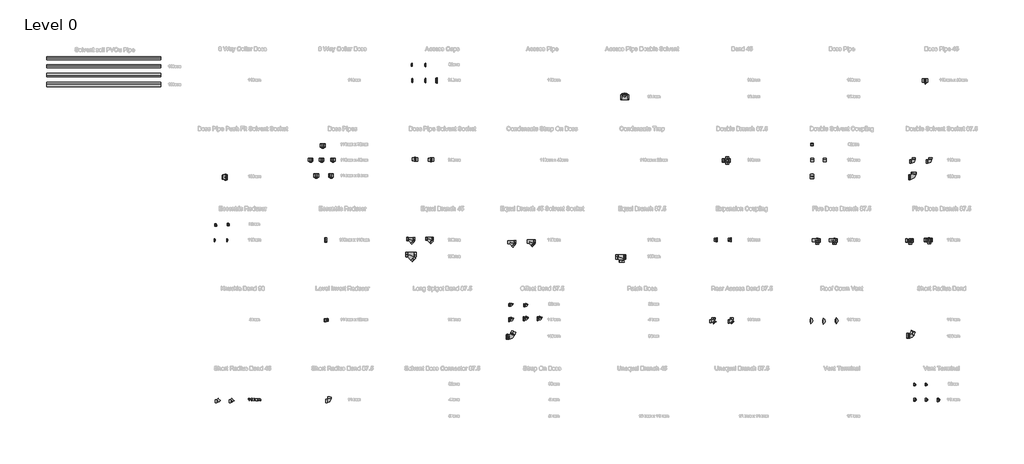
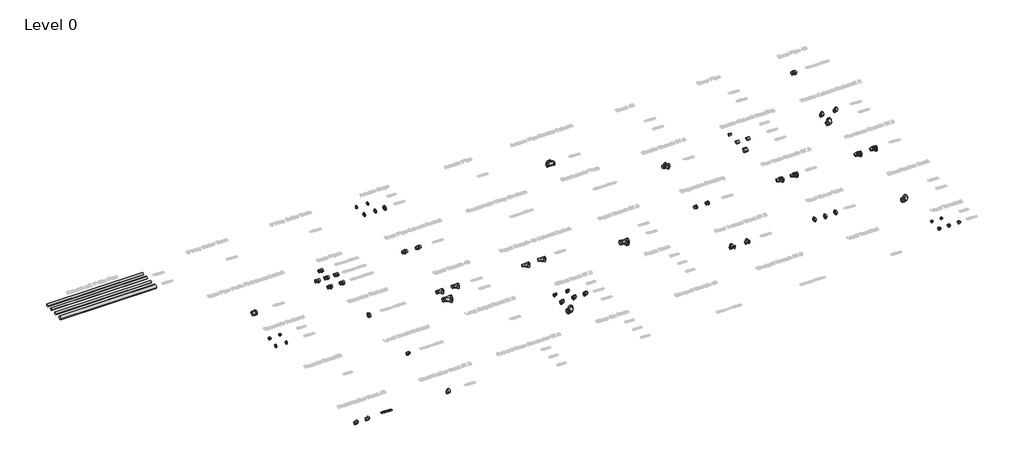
# One storey, part 1 of 28: 66 pipe fittings, 1 proxy.
"""IFC4 building model written with IfcOpenShell, lengths in millimetres."""

from ifc_helpers import new_model, si_unit, point, frame, frame_2d, origin, origin_with_axes, place, context, project, spatial, polyline, circle_curve, trimmed, segment, composite_curve, outline, extrude, transform, mapped, element, save
from components import pipe_fitting_2f369d07, pipe_fitting_110_50mm_black_856728b7, sbs41_110mm_grey_8f80f610, sbs415_110mm_black_f26f8e69, sbs42_110mm_black_3087da24, sbs420_110mm_black_80ae0a49, sbs420_110mm_grey_e3ce7930, sbs615_160mm_grey_46f063da, sbs62_160mm_grey_686f7743, se30_82mm_black_4757cc3a, se30_82mm_grey_369aa931, se40_110mm_black_21bf3a31, se409_110mm_black_ec458fc1, se62_160mm_grey_2d04aa3b, ses301_82mm_grey_1981b395, ses401_110mm_black_934ae7e3, ses601_160mm_grey_66289dab, sf611_160mm_grey_c065f74c, sne300_82mm_black_0a9ef5f2, sne405_110mm_black_bdd464f6, sne600_160mm_grey_be5d63d1, srm30_82mm_black_274c11a8, srs304_110mm_x_82mm_grey_6781d9f6, srs604_160mm_x_110mm_grey_bcae88a4, sv321_82mm_black_45549914, sv42_110mm_black_ff0adb0d, svc1_110mm_black_98830061, sw60_160mm_grey_9d2c8001, sws405_110mm_black_abae9346, sws41_110mm_x_40mm_black_fd55dc5a, sws415_110mm_x_32mm_grey_02e9ccfc, sws42_110mm_x_50mm_black_5e80c7fd, sy415_110mm_black_735aa494, sys404_110mm_grey_1d753bb9, sys405_110mm_black_4771365e, sys460_110mm_black_a823f374, sys466_110mm_black_27348bd2, sys601_160mm_grey_4aa5460a, sys666_160mm_grey_06b153c9

model = new_model("IFC4")

# Units and contexts
model_context = context("Model", 3, world=origin())
ifc_project = project(units=[si_unit("LENGTHUNIT", "METRE", prefix="MILLI")], contexts=[model_context])

# Site, building, storey
site = spatial("IfcSite", under=ifc_project)
building = spatial("IfcBuilding", under=site)
storey = spatial("IfcBuildingStorey", under=building, Name="Level 0", Elevation=0.0)

# Proxy
placement = place(None, origin())
element("IfcBuildingElementProxy", 1, Name="100mm Arial", ObjectType="100mm Arial", at=placement, inside=storey, context=model_context, shape_type="SweptSolid", body=[
    extrude(outline(polyline([(-20791.7293188, -2962.2832696), (-20804.0370111, -2962.2832696), (-20804.0370111, -2885.5525004), (-20815.6956649, -2893.8577889), (-20828.6523957, -2900.0717312), (-20828.6523957, -2888.4371158), (-20810.6115303, -2876.9226927), (-20799.6620111, -2863.8217312), (-20791.7293188, -2863.8217312), (-20791.7293188, -2962.2832696)])), origin_with_axes(), (0.0, 0.0, 1.0), 15.0),
    extrude(outline(polyline([(-20716.3447034, -2962.2832696), (-20728.6523957, -2962.2832696), (-20728.6523957, -2885.5525004), (-20740.3110495, -2893.8577889), (-20753.2677803, -2900.0717312), (-20753.2677803, -2888.4371158), (-20735.2269149, -2876.9226927), (-20724.2773957, -2863.8217312), (-20716.3447034, -2863.8217312), (-20716.3447034, -2962.2832696)])), origin_with_axes(), (0.0, 0.0, 1.0), 15.0),
    extrude(outline(polyline([(-20687.1139341, -2913.8457696), (-20683.4961457, -2885.5164427), (-20672.7509534, -2869.1823081), (-20654.8062418, -2863.8217312), (-20640.4312418, -2866.9948081), (-20630.5033572, -2876.1414427), (-20624.7341264, -2890.7087504), (-20622.4985495, -2913.8457696), (-20626.0802803, -2942.0549042), (-20636.7894149, -2958.4250965), (-20654.8062418, -2963.8217312), (-20667.5947034, -2961.4779812), (-20677.3062418, -2954.4467312), (-20684.6620111, -2937.7940869), (-20687.1139341, -2913.8457696)]), holes=[polyline([(-20674.8062418, -2913.8217312), (-20673.3639341, -2933.1817071), (-20669.0370111, -2944.386635), (-20662.5947034, -2949.7321879), (-20654.8062418, -2951.5140389), (-20647.0177803, -2949.7261783), (-20640.5754726, -2944.3625965), (-20636.2485495, -2933.151659), (-20634.8062418, -2913.8217312), (-20636.2004726, -2894.8974523), (-20640.3831649, -2883.605385), (-20646.8134534, -2877.9984139), (-20654.9504726, -2876.1294235), (-20662.6547995, -2877.7760581), (-20668.8447034, -2882.7159619), (-20673.3158572, -2894.7111542), (-20674.8062418, -2913.8217312)])]), origin_with_axes(), (0.0, 0.0, 1.0), 15.0),
    extrude(outline(polyline([(-20608.6523957, -2962.2832696), (-20608.6523957, -2889.9755773), (-20596.3447034, -2889.9755773), (-20596.3447034, -2901.8746158), (-20587.8831649, -2892.1270196), (-20575.8398957, -2888.4371158), (-20563.5081649, -2892.199135), (-20556.7293188, -2902.7400004), (-20547.1259534, -2892.0128369), (-20534.9985495, -2888.4371158), (-20525.7467466, -2889.9244956), (-20518.9047995, -2894.386635), (-20514.6770351, -2901.9437264), (-20513.2677803, -2912.7159619), (-20513.2677803, -2962.2832696), (-20525.5754726, -2962.2832696), (-20525.5754726, -2918.0044235), (-20526.7172995, -2907.7279812), (-20530.8519149, -2902.667885), (-20537.8831649, -2900.7448081), (-20549.9865303, -2905.6726927), (-20554.8062418, -2921.4659619), (-20554.8062418, -2962.2832696), (-20567.1139341, -2962.2832696), (-20567.1139341, -2916.6342312), (-20569.9624918, -2904.7111542), (-20579.3014341, -2900.7448081), (-20588.4120111, -2903.3890389), (-20594.4697034, -2911.1294235), (-20596.3447034, -2925.8169235), (-20596.3447034, -2962.2832696), (-20608.6523957, -2962.2832696)])), origin_with_axes(), (0.0, 0.0, 1.0), 15.0),
    extrude(outline(polyline([(-20494.8062418, -2962.2832696), (-20494.8062418, -2889.9755773), (-20482.4985495, -2889.9755773), (-20482.4985495, -2901.8746158), (-20474.0370111, -2892.1270196), (-20461.9937418, -2888.4371158), (-20449.6620111, -2892.199135), (-20442.8831649, -2902.7400004), (-20433.2797995, -2892.0128369), (-20421.1523957, -2888.4371158), (-20411.9005928, -2889.9244956), (-20405.0586457, -2894.386635), (-20400.8308813, -2901.9437264), (-20399.4216264, -2912.7159619), (-20399.4216264, -2962.2832696), (-20411.7293188, -2962.2832696), (-20411.7293188, -2918.0044235), (-20412.8711457, -2907.7279812), (-20417.0057611, -2902.667885), (-20424.0370111, -2900.7448081), (-20436.1403764, -2905.6726927), (-20440.960088, -2921.4659619), (-20440.960088, -2962.2832696), (-20453.2677803, -2962.2832696), (-20453.2677803, -2916.6342312), (-20456.116338, -2904.7111542), (-20465.4552803, -2900.7448081), (-20474.5658572, -2903.3890389), (-20480.6235495, -2911.1294235), (-20482.4985495, -2925.8169235), (-20482.4985495, -2962.2832696), (-20494.8062418, -2962.2832696)])), origin_with_axes(), (0.0, 0.0, 1.0), 15.0),
])

# Pipe fittings
element("IfcPipeFitting", 2, ObjectType="Marley - PVC-u Solvent soil - Black", at=placement, inside=storey, context=model_context, shape_type="SweptSolid", body=[
    extrude(outline(composite_curve([segment(trimmed(circle_curve(frame_2d((9042.2150172, 0.0)), 55.0), [point((8987.2150172, 0.0))], [point((9042.2150172, 55.0))], False, "CARTESIAN"), True, "CONTINUOUS"), segment(trimmed(circle_curve(frame_2d((9042.2150172, 0.0)), 55.0), [point((9042.2150172, 55.0))], [point((9097.2150172, 0.0))], False, "CARTESIAN"), True, "CONTINUOUS"), segment(trimmed(circle_curve(frame_2d((9042.2150172, 0.0)), 55.0), [point((9097.2150172, 0.0))], [point((9042.2150172, -55.0))], False, "CARTESIAN"), True, "CONTINUOUS"), segment(trimmed(circle_curve(frame_2d((9042.2150172, 0.0)), 55.0), [point((9042.2150172, -55.0))], [point((8987.2150172, 0.0))], False, "CARTESIAN"), True, "CONTINUOUS")], self_intersect=False)), frame((-27902.1440159, 0.0, 0.0), z_axis=(1.0, 0.0, 0.0), x_axis=(0.0, 1.0, 0.0)), (0.0, 0.0, 1.0), 4000.0),
])
element("IfcPipeFitting", 3, ObjectType="Marley - PVC-u Solvent soil - Grey", at=placement, inside=storey, context=model_context, shape_type="SweptSolid", body=[
    extrude(outline(composite_curve([segment(trimmed(circle_curve(frame_2d((8760.0861605, 0.0)), 55.0), [point((8705.0861605, 0.0))], [point((8760.0861605, 55.0))], False, "CARTESIAN"), True, "CONTINUOUS"), segment(trimmed(circle_curve(frame_2d((8760.0861605, 0.0)), 55.0), [point((8760.0861605, 55.0))], [point((8815.0861605, 0.0))], False, "CARTESIAN"), True, "CONTINUOUS"), segment(trimmed(circle_curve(frame_2d((8760.0861605, 0.0)), 55.0), [point((8815.0861605, 0.0))], [point((8760.0861605, -55.0))], False, "CARTESIAN"), True, "CONTINUOUS"), segment(trimmed(circle_curve(frame_2d((8760.0861605, 0.0)), 55.0), [point((8760.0861605, -55.0))], [point((8705.0861605, 0.0))], False, "CARTESIAN"), True, "CONTINUOUS")], self_intersect=False)), frame((-27902.1440159, 0.0, 0.0), z_axis=(1.0, 0.0, 0.0), x_axis=(0.0, 1.0, 0.0)), (0.0, 0.0, 1.0), 4000.0),
])
element("IfcPipeFitting", 4, ObjectType="Marley - PVC-u Solvent soil - Grey", at=placement, inside=storey, context=model_context, shape_type="SweptSolid", body=[
    extrude(outline(composite_curve([segment(trimmed(circle_curve(frame_2d((8131.2108342, 0.0)), 80.0), [point((8051.2108342, 0.0))], [point((8131.2108342, 80.0))], False, "CARTESIAN"), True, "CONTINUOUS"), segment(trimmed(circle_curve(frame_2d((8131.2108342, 0.0)), 80.0), [point((8131.2108342, 80.0))], [point((8211.2108342, 0.0))], False, "CARTESIAN"), True, "CONTINUOUS"), segment(trimmed(circle_curve(frame_2d((8131.2108342, 0.0)), 80.0), [point((8211.2108342, 0.0))], [point((8131.2108342, -80.0))], False, "CARTESIAN"), True, "CONTINUOUS"), segment(trimmed(circle_curve(frame_2d((8131.2108342, 0.0)), 80.0), [point((8131.2108342, -80.0))], [point((8051.2108342, 0.0))], False, "CARTESIAN"), True, "CONTINUOUS")], self_intersect=False)), frame((-27902.1440159, 0.0, 0.0), z_axis=(1.0, 0.0, 0.0), x_axis=(0.0, 1.0, 0.0)), (0.0, 0.0, 1.0), 4000.0),
])
element("IfcPipeFitting", 5, ObjectType="Marley - PVC-u Solvent soil - White", at=placement, inside=storey, context=model_context, shape_type="SweptSolid", body=[
    extrude(outline(composite_curve([segment(trimmed(circle_curve(frame_2d((8456.1377626, 0.0)), 55.0), [point((8401.1377626, 0.0))], [point((8456.1377626, 55.0))], False, "CARTESIAN"), True, "CONTINUOUS"), segment(trimmed(circle_curve(frame_2d((8456.1377626, 0.0)), 55.0), [point((8456.1377626, 55.0))], [point((8511.1377626, 0.0))], False, "CARTESIAN"), True, "CONTINUOUS"), segment(trimmed(circle_curve(frame_2d((8456.1377626, 0.0)), 55.0), [point((8511.1377626, 0.0))], [point((8456.1377626, -55.0))], False, "CARTESIAN"), True, "CONTINUOUS"), segment(trimmed(circle_curve(frame_2d((8456.1377626, 0.0)), 55.0), [point((8456.1377626, -55.0))], [point((8401.1377626, 0.0))], False, "CARTESIAN"), True, "CONTINUOUS")], self_intersect=False)), frame((-27902.1440159, 0.0, 0.0), z_axis=(1.0, 0.0, 0.0), x_axis=(0.0, 1.0, 0.0)), (0.0, 0.0, 1.0), 4000.0),
])
pipe_fitting_shape = pipe_fitting_2f369d07(model_context)
element("IfcPipeFitting", 6, ObjectType="MarleyPlumbingAndDrainage_PipeFitting_BossPipe_SWS4135 : 110x50mm  - Grey", at=placement, inside=storey, context=model_context, shape_type="MappedRepresentation", body=[
    mapped(pipe_fitting_shape, transform((2830.9335488, 8260.2145219, 0.0), x_axis=(1.0, 0.0, 0.0), y_axis=(0.0, 1.0, 0.0), z_axis=(0.0, 0.0, 1.0))),
])
pipe_fitting_110_50mm_black_shape = pipe_fitting_110_50mm_black_856728b7(model_context)
element("IfcPipeFitting", 7, ObjectType="MarleyPlumbingAndDrainage_PipeFitting_EccentricReducer_SRM402 : 110-50mm - Black", at=placement, inside=storey, context=model_context, shape_type="MappedRepresentation", body=[
    mapped(pipe_fitting_110_50mm_black_shape, transform((-22004.0664512, 2670.2145219, 0.0), x_axis=(1.0, 0.0, 0.0), y_axis=(0.0, 1.0, 0.0), z_axis=(0.0, 0.0, 1.0))),
])
element("IfcPipeFitting", 8, ObjectType="MarleyPlumbingAndDrainage_PipeFitting_EccentricReducer_SRM402 : 110-50mm - Grey", at=placement, inside=storey, context=model_context, shape_type="MappedRepresentation", body=[
    mapped(pipe_fitting_110_50mm_black_shape, transform((-21564.0664512, 2670.2145219, 0.0), x_axis=(1.0, 0.0, 0.0), y_axis=(0.0, 1.0, 0.0), z_axis=(0.0, 0.0, 1.0))),
])
sbs41_110mm_grey_shape = sbs41_110mm_grey_8f80f610(model_context)
element("IfcPipeFitting", 9, ObjectType="MarleyPlumbingAndDrainage_PipeFitting_ShortRadiusBend87.5 : SBS41 - 110mm - Grey", at=placement, inside=storey, context=model_context, shape_type="MappedRepresentation", body=[
    mapped(sbs41_110mm_grey_shape, transform((-17974.2996631, -2974.4663796, 0.0), x_axis=(1.0, 0.0, 0.0), y_axis=(0.0, 1.0, 0.0), z_axis=(0.0, 0.0, 1.0))),
])
sbs415_110mm_black_shape = sbs415_110mm_black_f26f8e69(model_context)
element("IfcPipeFitting", 10, ObjectType="MarleyPlumbingAndDrainage_PipeFitting_ShortRadiusBend45 : SBS415 - 110mm - Black", at=placement, inside=storey, context=model_context, shape_type="MappedRepresentation", body=[
    mapped(sbs415_110mm_black_shape, transform((-21894.2996631, -2979.7854781, 0.0), x_axis=(1.0, 0.0, 0.0), y_axis=(0.0, 1.0, 0.0), z_axis=(0.0, 0.0, 1.0))),
])
element("IfcPipeFitting", 11, ObjectType="MarleyPlumbingAndDrainage_PipeFitting_ShortRadiusBend45 : SBS415 - 110mm - Grey", at=placement, inside=storey, context=model_context, shape_type="MappedRepresentation", body=[
    mapped(sbs415_110mm_black_shape, transform((-21414.2996631, -2979.7854781, 0.0), x_axis=(1.0, 0.0, 0.0), y_axis=(0.0, 1.0, 0.0), z_axis=(0.0, 0.0, 1.0))),
])
sbs42_110mm_black_shape = sbs42_110mm_black_3087da24(model_context)
element("IfcPipeFitting", 12, ObjectType="MarleyPlumbingAndDrainage_PipeFitting_DoubleSolventSocket87-5 : SBS42 - 110mm - Black", at=placement, inside=storey, context=model_context, shape_type="MappedRepresentation", body=[
    mapped(sbs42_110mm_black_shape, transform((2505.7589306, 5421.2671681, 0.0), x_axis=(1.0, 0.0, 0.0), y_axis=(0.0, 1.0, 0.0), z_axis=(0.0, 0.0, 1.0))),
])
element("IfcPipeFitting", 13, ObjectType="MarleyPlumbingAndDrainage_PipeFitting_DoubleSolventSocket87-5 : SBS42 - 110mm - Grey", at=placement, inside=storey, context=model_context, shape_type="MappedRepresentation", body=[
    mapped(sbs42_110mm_black_shape, transform((3085.7589306, 5421.2671681, 0.0), x_axis=(1.0, 0.0, 0.0), y_axis=(0.0, 1.0, 0.0), z_axis=(0.0, 0.0, 1.0))),
])
sbs420_110mm_black_shape = sbs420_110mm_black_80ae0a49(model_context)
element("IfcPipeFitting", 14, ObjectType="MarleyPlumbingAndDrainage_PipeFitting_RearAccessBend87-5 : SBS420 - 110mm - Black", at=placement, inside=storey, context=model_context, shape_type="MappedRepresentation", body=[
    mapped(sbs420_110mm_black_shape, transform((-4527.4996631, -176.2862224, 0.0), x_axis=(1.0, 0.0, 0.0), y_axis=(0.0, 1.0, 0.0), z_axis=(0.0, 0.0, 1.0))),
])
sbs420_110mm_grey_shape = sbs420_110mm_grey_e3ce7930(model_context)
element("IfcPipeFitting", 15, ObjectType="MarleyPlumbingAndDrainage_PipeFitting_RearAccessBend87-5 : SBS420 - 110mm - Grey", at=placement, inside=storey, context=model_context, shape_type="MappedRepresentation", body=[
    mapped(sbs420_110mm_grey_shape, transform((-3887.4996631, -180.8831641, 0.0), x_axis=(1.0, 0.0, 0.0), y_axis=(0.0, 1.0, 0.0), z_axis=(0.0, 0.0, 1.0))),
])
sbs615_160mm_grey_shape = sbs615_160mm_grey_46f063da(model_context)
element("IfcPipeFitting", 16, ObjectType="MarleyPlumbingAndDrainage_PipeFitting_ShortRadiusBend : SBS615 - 160mm - Grey", at=placement, inside=storey, context=model_context, shape_type="MappedRepresentation", body=[
    mapped(sbs615_160mm_grey_shape, transform((2425.7589306, -686.2668881, 0.0), x_axis=(1.0, 0.0, 0.0), y_axis=(0.0, 1.0, 0.0), z_axis=(0.0, 0.0, 1.0))),
])
sbs62_160mm_grey_shape = sbs62_160mm_grey_686f7743(model_context)
element("IfcPipeFitting", 17, ObjectType="MarleyPlumbingAndDrainage_PipeFitting_DoubleSolventSocket87-5 : SBS62 - 160mm - Grey", at=placement, inside=storey, context=model_context, shape_type="MappedRepresentation", body=[
    mapped(sbs62_160mm_grey_shape, transform((2505.7589306, 4874.2311011, 0.0), x_axis=(1.0, 0.0, 0.0), y_axis=(0.0, 1.0, 0.0), z_axis=(0.0, 0.0, 1.0))),
])
se30_82mm_black_shape = se30_82mm_black_4757cc3a(model_context)
element("IfcPipeFitting", 18, ObjectType="MarleyPlumbingAndDrainage_PipeFitting_AccessCaps : SE30 - 82mm - Black", at=placement, inside=storey, context=model_context, shape_type="MappedRepresentation", body=[
    mapped(se30_82mm_black_shape, transform((-14758.3806337, 8816.4227471, 0.0), x_axis=(1.0, 0.0, 0.0), y_axis=(0.0, 1.0, 0.0), z_axis=(0.0, 0.0, 1.0))),
])
se30_82mm_grey_shape = se30_82mm_grey_369aa931(model_context)
element("IfcPipeFitting", 19, ObjectType="MarleyPlumbingAndDrainage_PipeFitting_AccessCaps : SE30 - 82mm - Grey", at=placement, inside=storey, context=model_context, shape_type="MappedRepresentation", body=[
    mapped(se30_82mm_grey_shape, transform((-14298.3806337, 8811.1362641, 0.0), x_axis=(1.0, 0.0, 0.0), y_axis=(0.0, 1.0, 0.0), z_axis=(0.0, 0.0, 1.0))),
])
se40_110mm_black_shape = se40_110mm_black_21bf3a31(model_context)
element("IfcPipeFitting", 20, ObjectType="MarleyPlumbingAndDrainage_PipeFitting_AccessCaps : SE40 - 110mm - Black", at=placement, inside=storey, context=model_context, shape_type="MappedRepresentation", body=[
    mapped(se40_110mm_black_shape, transform((-14758.3806337, 8266.6285151, 0.0), x_axis=(1.0, 0.0, 0.0), y_axis=(0.0, 1.0, 0.0), z_axis=(0.0, 0.0, 1.0))),
])
element("IfcPipeFitting", 21, ObjectType="MarleyPlumbingAndDrainage_PipeFitting_AccessCaps : SE40 - 110mm - Grey", at=placement, inside=storey, context=model_context, shape_type="MappedRepresentation", body=[
    mapped(se40_110mm_black_shape, transform((-14298.3806337, 8261.3420321, 0.0), x_axis=(1.0, 0.0, 0.0), y_axis=(0.0, 1.0, 0.0), z_axis=(0.0, 0.0, 1.0))),
])
se409_110mm_black_shape = se409_110mm_black_ec458fc1(model_context)
element("IfcPipeFitting", 22, ObjectType="MarleyPlumbingAndDrainage_PipeFitting_ExpansionCoupling : SE409 - 110mm - Black", at=placement, inside=storey, context=model_context, shape_type="MappedRepresentation", body=[
    mapped(se409_110mm_black_shape, transform((-4434.2410694, 2679.9135519, 0.0), x_axis=(1.0, 0.0, 0.0), y_axis=(0.0, 1.0, 0.0), z_axis=(0.0, 0.0, 1.0))),
])
element("IfcPipeFitting", 23, ObjectType="MarleyPlumbingAndDrainage_PipeFitting_ExpansionCoupling : SE409 - 110mm - Grey", at=placement, inside=storey, context=model_context, shape_type="MappedRepresentation", body=[
    mapped(se409_110mm_black_shape, transform((-3939.2410694, 2684.5104937, 0.0), x_axis=(1.0, 0.0, 0.0), y_axis=(0.0, 1.0, 0.0), z_axis=(0.0, 0.0, 1.0))),
])
se62_160mm_grey_shape = se62_160mm_grey_2d04aa3b(model_context)
element("IfcPipeFitting", 24, ObjectType="MarleyPlumbingAndDrainage_PipeFitting_AccessCaps : SE62 - 160mm - Grey", at=placement, inside=storey, context=model_context, shape_type="MappedRepresentation", body=[
    mapped(se62_160mm_grey_shape, transform((-13898.3806337, 8266.6285151, 0.0), x_axis=(1.0, 0.0, 0.0), y_axis=(0.0, 1.0, 0.0), z_axis=(0.0, 0.0, 1.0))),
])
ses301_82mm_grey_shape = ses301_82mm_grey_1981b395(model_context)
element("IfcPipeFitting", 25, ObjectType="MarleyPlumbingAndDrainage_PipeFitting_DoubleSolventCoupling : SES301 - 82mm - Grey", at=placement, inside=storey, context=model_context, shape_type="MappedRepresentation", body=[
    mapped(ses301_82mm_grey_shape, transform((-1054.2410694, 6026.1169466, 0.0), x_axis=(1.0, 0.0, 0.0), y_axis=(0.0, 1.0, 0.0), z_axis=(0.0, 0.0, 1.0))),
])
ses401_110mm_black_shape = ses401_110mm_black_934ae7e3(model_context)
element("IfcPipeFitting", 26, ObjectType="MarleyPlumbingAndDrainage_PipeFitting_DoubleSolventCoupling : SES401 - 110mm - Black", at=placement, inside=storey, context=model_context, shape_type="MappedRepresentation", body=[
    mapped(ses401_110mm_black_shape, transform((-1054.2410694, 5483.8689985, 0.0), x_axis=(1.0, 0.0, 0.0), y_axis=(0.0, 1.0, 0.0), z_axis=(0.0, 0.0, 1.0))),
])
element("IfcPipeFitting", 27, ObjectType="MarleyPlumbingAndDrainage_PipeFitting_DoubleSolventCoupling : SES401 - 110mm - Grey", at=placement, inside=storey, context=model_context, shape_type="MappedRepresentation", body=[
    mapped(ses401_110mm_black_shape, transform((-614.2410694, 5483.8689985, 0.0), x_axis=(1.0, 0.0, 0.0), y_axis=(0.0, 1.0, 0.0), z_axis=(0.0, 0.0, 1.0))),
])
ses601_160mm_grey_shape = ses601_160mm_grey_66289dab(model_context)
element("IfcPipeFitting", 28, ObjectType="MarleyPlumbingAndDrainage_PipeFitting_DoubleSolventCoupling : SES601 - 160mm - Grey", at=placement, inside=storey, context=model_context, shape_type="MappedRepresentation", body=[
    mapped(ses601_160mm_grey_shape, transform((-1054.2410694, 4903.3856182, 0.0), x_axis=(1.0, 0.0, 0.0), y_axis=(0.0, 1.0, 0.0), z_axis=(0.0, 0.0, 1.0))),
])
sf611_160mm_grey_shape = sf611_160mm_grey_c065f74c(model_context)
element("IfcPipeFitting", 29, ObjectType="MarleyPlumbingAndDrainage_PipeFitting_AccessPipeDoubleSolvent : SF611 - 160mm - Grey", at=placement, inside=storey, context=model_context, shape_type="MappedRepresentation", body=[
    mapped(sf611_160mm_grey_shape, transform((-7636.0664512, 7671.6477338, 0.0), x_axis=(0.0, -1.0, 0.0), y_axis=(1.0, 0.0, 0.0), z_axis=(0.0, 0.0, 1.0))),
])
sne300_82mm_black_shape = sne300_82mm_black_0a9ef5f2(model_context)
element("IfcPipeFitting", 30, ObjectType="MarleyPlumbingAndDrainage_PipeFitting_OffsetBend67-5 : SNE300 - 82mm - Black", at=placement, inside=storey, context=model_context, shape_type="MappedRepresentation", body=[
    mapped(sne300_82mm_black_shape, transform((-11607.4996631, 400.6991396, 0.0), x_axis=(1.0, 0.0, 0.0), y_axis=(0.0, 1.0, 0.0), z_axis=(0.0, 0.0, 1.0))),
])
element("IfcPipeFitting", 31, ObjectType="MarleyPlumbingAndDrainage_PipeFitting_OffsetBend67-5 : SNE300 - 82mm - Grey", at=placement, inside=storey, context=model_context, shape_type="MappedRepresentation", body=[
    mapped(sne300_82mm_black_shape, transform((-11087.4996631, 386.9083144, 0.0), x_axis=(1.0, 0.0, 0.0), y_axis=(0.0, 1.0, 0.0), z_axis=(0.0, 0.0, 1.0))),
])
sne405_110mm_black_shape = sne405_110mm_black_bdd464f6(model_context)
element("IfcPipeFitting", 32, ObjectType="MarleyPlumbingAndDrainage_PipeFitting_OffsetBend67-5 : SNE405 - 110mm - Black", at=placement, inside=storey, context=model_context, shape_type="MappedRepresentation", body=[
    mapped(sne405_110mm_black_shape, transform((-11607.4996631, -116.6096683, 0.0), x_axis=(1.0, 0.0, 0.0), y_axis=(0.0, 1.0, 0.0), z_axis=(0.0, 0.0, 1.0))),
])
element("IfcPipeFitting", 33, ObjectType="MarleyPlumbingAndDrainage_PipeFitting_OffsetBend67-5 : SNE405 - 110mm - Grey", at=placement, inside=storey, context=model_context, shape_type="MappedRepresentation", body=[
    mapped(sne405_110mm_black_shape, transform((-11087.4996631, -86.2123911, 0.0), x_axis=(1.0, 0.0, 0.0), y_axis=(0.0, 1.0, 0.0), z_axis=(0.0, 0.0, 1.0))),
])
element("IfcPipeFitting", 34, ObjectType="MarleyPlumbingAndDrainage_PipeFitting_OffsetBend67-5 : SNE405 - 110mm - White", at=placement, inside=storey, context=model_context, shape_type="MappedRepresentation", body=[
    mapped(sne405_110mm_black_shape, transform((-10607.4996631, -84.4507574, 0.0), x_axis=(1.0, 0.0, 0.0), y_axis=(0.0, 1.0, 0.0), z_axis=(0.0, 0.0, 1.0))),
])
sne600_160mm_grey_shape = sne600_160mm_grey_be5d63d1(model_context)
element("IfcPipeFitting", 35, ObjectType="MarleyPlumbingAndDrainage_PipeFitting_OffsetBend67-5 : SNE600 - 160mm - Grey", at=placement, inside=storey, context=model_context, shape_type="MappedRepresentation", body=[
    mapped(sne600_160mm_grey_shape, transform((-11607.4996631, -720.9546449, 0.0), x_axis=(1.0, 0.0, 0.0), y_axis=(0.0, 1.0, 0.0), z_axis=(0.0, 0.0, 1.0))),
])
srm30_82mm_black_shape = srm30_82mm_black_274c11a8(model_context)
element("IfcPipeFitting", 36, ObjectType="MarleyPlumbingAndDrainage_PipeFitting_EccentricReducer : SRM30 - 82mm - Black", at=placement, inside=storey, context=model_context, shape_type="MappedRepresentation", body=[
    mapped(srm30_82mm_black_shape, transform((-21934.2410694, 3200.2145219, 0.0), x_axis=(1.0, 0.0, 0.0), y_axis=(0.0, 1.0, 0.0), z_axis=(0.0, 0.0, 1.0))),
])
element("IfcPipeFitting", 37, ObjectType="MarleyPlumbingAndDrainage_PipeFitting_EccentricReducer : SRM30 - 82mm - Grey", at=placement, inside=storey, context=model_context, shape_type="MappedRepresentation", body=[
    mapped(srm30_82mm_black_shape, transform((-21494.2410694, 3220.2145219, 0.0), x_axis=(1.0, 0.0, 0.0), y_axis=(0.0, 1.0, 0.0), z_axis=(0.0, 0.0, 1.0))),
])
srs304_110mm_x_82mm_grey_shape = srs304_110mm_x_82mm_grey_6781d9f6(model_context)
element("IfcPipeFitting", 38, ObjectType="MarleyPlumbingAndDrainage_PipeFitting_LevelInvertReducer_SRS304 : SRS304 - 110mm x 82mm - Grey", at=placement, inside=storey, context=model_context, shape_type="MappedRepresentation", body=[
    mapped(srs304_110mm_x_82mm_grey_shape, transform((-18080.4865678, -122.2029833, 0.0), x_axis=(1.0, 0.0, 0.0), y_axis=(0.0, 1.0, 0.0), z_axis=(0.0, 0.0, 1.0))),
])
srs604_160mm_x_110mm_grey_shape = srs604_160mm_x_110mm_grey_bcae88a4(model_context)
element("IfcPipeFitting", 39, ObjectType="MarleyPlumbingAndDrainage_PipeFitting_EccentricReducer_SRS604 : SRS604 - 160mm x 110mm - Grey", at=placement, inside=storey, context=model_context, shape_type="MappedRepresentation", body=[
    mapped(srs604_160mm_x_110mm_grey_shape, transform((-18094.2410694, 2677.5268496, 0.0), x_axis=(1.0, 0.0, 0.0), y_axis=(0.0, 1.0, 0.0), z_axis=(0.0, 0.0, 1.0))),
])
sv321_82mm_black_shape = sv321_82mm_black_45549914(model_context)
element("IfcPipeFitting", 40, ObjectType="MarleyPlumbingAndDrainage_PipeFitting_VentTerminal_SV321 : SV321 - 82mm - Black", at=placement, inside=storey, context=model_context, shape_type="MappedRepresentation", body=[
    mapped(sv321_82mm_black_shape, transform((2821.6193663, -2396.7753979, 0.0), x_axis=(1.0, 0.0, 0.0), y_axis=(0.0, 1.0, 0.0), z_axis=(0.0, 0.0, 1.0))),
])
element("IfcPipeFitting", 41, ObjectType="MarleyPlumbingAndDrainage_PipeFitting_VentTerminal_SV321 : SV321 - 82mm - Grey", at=placement, inside=storey, context=model_context, shape_type="MappedRepresentation", body=[
    mapped(sv321_82mm_black_shape, transform((3221.6193663, -2392.3483639, 0.0), x_axis=(1.0, 0.0, 0.0), y_axis=(0.0, 1.0, 0.0), z_axis=(0.0, 0.0, 1.0))),
])
sv42_110mm_black_shape = sv42_110mm_black_ff0adb0d(model_context)
element("IfcPipeFitting", 42, ObjectType="MarleyPlumbingAndDrainage_PipeFitting_VentTerminal_SV321 : SV42 - 110mm - Black", at=placement, inside=storey, context=model_context, shape_type="MappedRepresentation", body=[
    mapped(sv42_110mm_black_shape, transform((2821.6193663, -2920.1372149, 0.0), x_axis=(1.0, 0.0, 0.0), y_axis=(0.0, 1.0, 0.0), z_axis=(0.0, 0.0, 1.0))),
])
element("IfcPipeFitting", 43, ObjectType="MarleyPlumbingAndDrainage_PipeFitting_VentTerminal_SV321 : SV42 - 110mm - Grey", at=placement, inside=storey, context=model_context, shape_type="MappedRepresentation", body=[
    mapped(sv42_110mm_black_shape, transform((3221.6193663, -2925.4236979, 0.0), x_axis=(1.0, 0.0, 0.0), y_axis=(0.0, 1.0, 0.0), z_axis=(0.0, 0.0, 1.0))),
])
element("IfcPipeFitting", 44, ObjectType="MarleyPlumbingAndDrainage_PipeFitting_VentTerminal_SV321 : SV42 - 110mm - White", at=placement, inside=storey, context=model_context, shape_type="MappedRepresentation", body=[
    mapped(sv42_110mm_black_shape, transform((3641.6193663, -2930.7101809, 0.0), x_axis=(1.0, 0.0, 0.0), y_axis=(0.0, 1.0, 0.0), z_axis=(0.0, 0.0, 1.0))),
])
svc1_110mm_black_shape = svc1_110mm_black_98830061(model_context)
element("IfcPipeFitting", 45, ObjectType="MarleyPlumbingAndDrainage_PipeFitting_RoofCownVent : SVC1 - 110mm - Black", at=placement, inside=storey, context=model_context, shape_type="MappedRepresentation", body=[
    mapped(svc1_110mm_black_shape, transform((-778.3806337, -153.0216464, 0.0), x_axis=(1.0, 0.0, 0.0), y_axis=(0.0, 1.0, 0.0), z_axis=(0.0, 0.0, 1.0))),
])
element("IfcPipeFitting", 46, ObjectType="MarleyPlumbingAndDrainage_PipeFitting_RoofCownVent : SVC1 - 110mm - Grey", at=placement, inside=storey, context=model_context, shape_type="MappedRepresentation", body=[
    mapped(svc1_110mm_black_shape, transform((-338.3806337, -171.4094133, 0.0), x_axis=(1.0, 0.0, 0.0), y_axis=(0.0, 1.0, 0.0), z_axis=(0.0, 0.0, 1.0))),
])
element("IfcPipeFitting", 47, ObjectType="MarleyPlumbingAndDrainage_PipeFitting_RoofCownVent : SVC1 - 110mm - White", at=placement, inside=storey, context=model_context, shape_type="MappedRepresentation", body=[
    mapped(svc1_110mm_black_shape, transform((101.6193663, -153.0216464, 0.0), x_axis=(1.0, 0.0, 0.0), y_axis=(0.0, 1.0, 0.0), z_axis=(0.0, 0.0, 1.0))),
])
sw60_160mm_grey_shape = sw60_160mm_grey_9d2c8001(model_context)
element("IfcPipeFitting", 48, ObjectType="MarleyPlumbingAndDrainage_PipeFitting_BossPipePushFitSolventSocket : SW60 - 160mm - Grey", at=placement, inside=storey, context=model_context, shape_type="MappedRepresentation", body=[
    mapped(sw60_160mm_grey_shape, transform((-21634.2410694, 4875.2145219, 0.0), x_axis=(1.0, 0.0, 0.0), y_axis=(0.0, 1.0, 0.0), z_axis=(0.0, 0.0, 1.0))),
])
sws405_110mm_black_shape = sws405_110mm_black_abae9346(model_context)
element("IfcPipeFitting", 49, ObjectType="MarleyPlumbingAndDrainage_PipeFitting_BossPipeSolventSocket : SWS405 - 110mm - Black", at=placement, inside=storey, context=model_context, shape_type="MappedRepresentation", body=[
    mapped(sws405_110mm_black_shape, transform((-14974.2410694, 5500.5963686, 0.0), x_axis=(1.0, 0.0, 0.0), y_axis=(0.0, 1.0, 0.0), z_axis=(0.0, 0.0, 1.0))),
])
element("IfcPipeFitting", 50, ObjectType="MarleyPlumbingAndDrainage_PipeFitting_BossPipeSolventSocket : SWS405 - 110mm - Grey", at=placement, inside=storey, context=model_context, shape_type="MappedRepresentation", body=[
    mapped(sws405_110mm_black_shape, transform((-14414.2410694, 5491.4024851, 0.0), x_axis=(1.0, 0.0, 0.0), y_axis=(0.0, 1.0, 0.0), z_axis=(0.0, 0.0, 1.0))),
])
sws41_110mm_x_40mm_black_shape = sws41_110mm_x_40mm_black_fd55dc5a(model_context)
element("IfcPipeFitting", 51, ObjectType="MarleyPlumbingAndDrainage_PipeFitting_BossPipes_90Deg : SWS41 - 110mm x 40mm - Black", at=placement, inside=storey, context=model_context, shape_type="MappedRepresentation", body=[
    mapped(sws41_110mm_x_40mm_black_shape, transform((-18633.0800336, 5487.7167304, 0.0), x_axis=(1.0, 0.0, 0.0), y_axis=(0.0, 1.0, 0.0), z_axis=(0.0, 0.0, 1.0))),
])
element("IfcPipeFitting", 52, ObjectType="MarleyPlumbingAndDrainage_PipeFitting_BossPipes_90Deg : SWS41 - 110mm x 40mm - Grey", at=placement, inside=storey, context=model_context, shape_type="MappedRepresentation", body=[
    mapped(sws41_110mm_x_40mm_black_shape, transform((-18248.0800336, 5487.7167304, 0.0), x_axis=(1.0, 0.0, 0.0), y_axis=(0.0, 1.0, 0.0), z_axis=(0.0, 0.0, 1.0))),
])
element("IfcPipeFitting", 53, ObjectType="MarleyPlumbingAndDrainage_PipeFitting_BossPipes_90Deg : SWS41 - 110mm x 40mm - White", at=placement, inside=storey, context=model_context, shape_type="MappedRepresentation", body=[
    mapped(sws41_110mm_x_40mm_black_shape, transform((-17848.0800336, 5487.7167304, 0.0), x_axis=(1.0, 0.0, 0.0), y_axis=(0.0, 1.0, 0.0), z_axis=(0.0, 0.0, 1.0))),
])
sws415_110mm_x_32mm_grey_shape = sws415_110mm_x_32mm_grey_02e9ccfc(model_context)
element("IfcPipeFitting", 54, ObjectType="MarleyPlumbingAndDrainage_PipeFitting_BossPipes_90Deg : SWS415 - 110mm x 32mm - Grey", at=placement, inside=storey, context=model_context, shape_type="MappedRepresentation", body=[
    mapped(sws415_110mm_x_32mm_grey_shape, transform((-18209.2410694, 5984.7367492, 0.0), x_axis=(1.0, 0.0, 0.0), y_axis=(0.0, 1.0, 0.0), z_axis=(0.0, 0.0, 1.0))),
])
sws42_110mm_x_50mm_black_shape = sws42_110mm_x_50mm_black_5e80c7fd(model_context)
element("IfcPipeFitting", 55, ObjectType="MarleyPlumbingAndDrainage_PipeFitting_BossPipes_90Deg : SWS42 - 110mm x 50mm - Black", at=placement, inside=storey, context=model_context, shape_type="MappedRepresentation", body=[
    mapped(sws42_110mm_x_50mm_black_shape, transform((-18434.2410694, 4938.7830559, 0.0), x_axis=(1.0, 0.0, 0.0), y_axis=(0.0, 1.0, 0.0), z_axis=(0.0, 0.0, 1.0))),
])
element("IfcPipeFitting", 56, ObjectType="MarleyPlumbingAndDrainage_PipeFitting_BossPipes_90Deg : SWS42 - 110mm x 50mm - Grey", at=placement, inside=storey, context=model_context, shape_type="MappedRepresentation", body=[
    mapped(sws42_110mm_x_50mm_black_shape, transform((-17919.2410694, 4938.7830559, 0.0), x_axis=(1.0, 0.0, 0.0), y_axis=(0.0, 1.0, 0.0), z_axis=(0.0, 0.0, 1.0))),
])
sy415_110mm_black_shape = sy415_110mm_black_735aa494(model_context)
element("IfcPipeFitting", 57, ObjectType="MarleyPlumbingAndDrainage_PipeFitting_FiveBossBranch87-5 : SY415 - 110mm - Black", at=placement, inside=storey, context=model_context, shape_type="MappedRepresentation", body=[
    mapped(sy415_110mm_black_shape, transform((-887.4996631, 2660.2145219, 0.0), x_axis=(1.0, 0.0, 0.0), y_axis=(0.0, 1.0, 0.0), z_axis=(0.0, 0.0, 1.0))),
])
element("IfcPipeFitting", 58, ObjectType="MarleyPlumbingAndDrainage_PipeFitting_FiveBossBranch87-5 : SY415 - 110mm - Grey", at=placement, inside=storey, context=model_context, shape_type="MappedRepresentation", body=[
    mapped(sy415_110mm_black_shape, transform((-287.4996631, 2660.2145219, 0.0), x_axis=(1.0, 0.0, 0.0), y_axis=(0.0, 1.0, 0.0), z_axis=(0.0, 0.0, 1.0))),
])
sys404_110mm_grey_shape = sys404_110mm_grey_1d753bb9(model_context)
element("IfcPipeFitting", 59, ObjectType="MarleyPlumbingAndDrainage_PipeFitting_DoubleBranch87-5 : SYS404 - 110mm - Grey", at=placement, inside=storey, context=model_context, shape_type="MappedRepresentation", body=[
    mapped(sys404_110mm_grey_shape, transform((-4047.4996631, 5460.2145219, 0.0), x_axis=(1.0, 0.0, 0.0), y_axis=(0.0, 1.0, 0.0), z_axis=(0.0, 0.0, 1.0))),
])
sys405_110mm_black_shape = sys405_110mm_black_4771365e(model_context)
element("IfcPipeFitting", 60, ObjectType="MarleyPlumbingAndDrainage_PipeFitting_FiveBossBranch87-5 : SYS405 - 110mm - Black", at=placement, inside=storey, context=model_context, shape_type="MappedRepresentation", body=[
    mapped(sys405_110mm_black_shape, transform((2372.5003369, 2652.8643311, 0.0), x_axis=(1.0, 0.0, 0.0), y_axis=(0.0, 1.0, 0.0), z_axis=(0.0, 0.0, 1.0))),
])
element("IfcPipeFitting", 61, ObjectType="MarleyPlumbingAndDrainage_PipeFitting_FiveBossBranch87-5 : SYS405 - 110mm - Grey", at=placement, inside=storey, context=model_context, shape_type="MappedRepresentation", body=[
    mapped(sys405_110mm_black_shape, transform((3032.5003369, 2674.0102631, 0.0), x_axis=(1.0, 0.0, 0.0), y_axis=(0.0, 1.0, 0.0), z_axis=(0.0, 0.0, 1.0))),
])
sys460_110mm_black_shape = sys460_110mm_black_a823f374(model_context)
element("IfcPipeFitting", 62, ObjectType="MarleyPlumbingAndDrainage_PipeFitting_EqualBranch45 : SYS460 - 110mm - Black", at=placement, inside=storey, context=model_context, shape_type="MappedRepresentation", body=[
    mapped(sys460_110mm_black_shape, transform((-11634.2410694, 2600.2145219, 0.0), x_axis=(1.0, 0.0, 0.0), y_axis=(0.0, 1.0, 0.0), z_axis=(0.0, 0.0, 1.0))),
])
element("IfcPipeFitting", 63, ObjectType="MarleyPlumbingAndDrainage_PipeFitting_EqualBranch45 : SYS460 - 110mm - Grey", at=placement, inside=storey, context=model_context, shape_type="MappedRepresentation", body=[
    mapped(sys460_110mm_black_shape, transform((-10954.2410694, 2620.2145219, 0.0), x_axis=(1.0, 0.0, 0.0), y_axis=(0.0, 1.0, 0.0), z_axis=(0.0, 0.0, 1.0))),
])
sys466_110mm_black_shape = sys466_110mm_black_27348bd2(model_context)
element("IfcPipeFitting", 64, ObjectType="MarleyPlumbingAndDrainage_PipeFitting_EqualBranch45 : SYS466 - 110mm - Black", at=placement, inside=storey, context=model_context, shape_type="MappedRepresentation", body=[
    mapped(sys466_110mm_black_shape, transform((-15174.2410694, 2705.7103104, 0.0), x_axis=(1.0, 0.0, 0.0), y_axis=(0.0, 1.0, 0.0), z_axis=(0.0, 0.0, 1.0))),
])
element("IfcPipeFitting", 65, ObjectType="MarleyPlumbingAndDrainage_PipeFitting_EqualBranch45 : SYS466 - 110mm - Grey", at=placement, inside=storey, context=model_context, shape_type="MappedRepresentation", body=[
    mapped(sys466_110mm_black_shape, transform((-14514.2410694, 2719.5011356, 0.0), x_axis=(1.0, 0.0, 0.0), y_axis=(0.0, 1.0, 0.0), z_axis=(0.0, 0.0, 1.0))),
])
sys601_160mm_grey_shape = sys601_160mm_grey_4aa5460a(model_context)
element("IfcPipeFitting", 66, ObjectType="MarleyPlumbingAndDrainage_PipeFitting_EqualBranch87-5_SYS601 : SYS601 - 160mm - Grey", at=placement, inside=storey, context=model_context, shape_type="MappedRepresentation", body=[
    mapped(sys601_160mm_grey_shape, transform((-7734.2410694, 2078.6836015, 0.0), x_axis=(1.0, 0.0, 0.0), y_axis=(0.0, 1.0, 0.0), z_axis=(0.0, 0.0, 1.0))),
])
sys666_160mm_grey_shape = sys666_160mm_grey_06b153c9(model_context)
element("IfcPipeFitting", 67, ObjectType="MarleyPlumbingAndDrainage_PipeFitting_EqualBranch45 : SYS666 - 160mm - Grey", at=placement, inside=storey, context=model_context, shape_type="MappedRepresentation", body=[
    mapped(sys666_160mm_grey_shape, transform((-15194.2410694, 2163.2711851, 0.0), x_axis=(1.0, 0.0, 0.0), y_axis=(0.0, 1.0, 0.0), z_axis=(0.0, 0.0, 1.0))),
])

save(model, "model.ifc")
